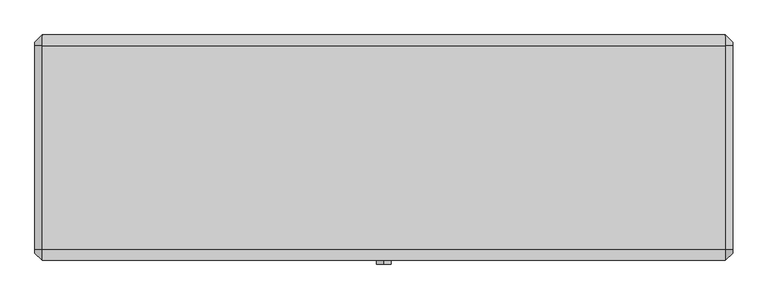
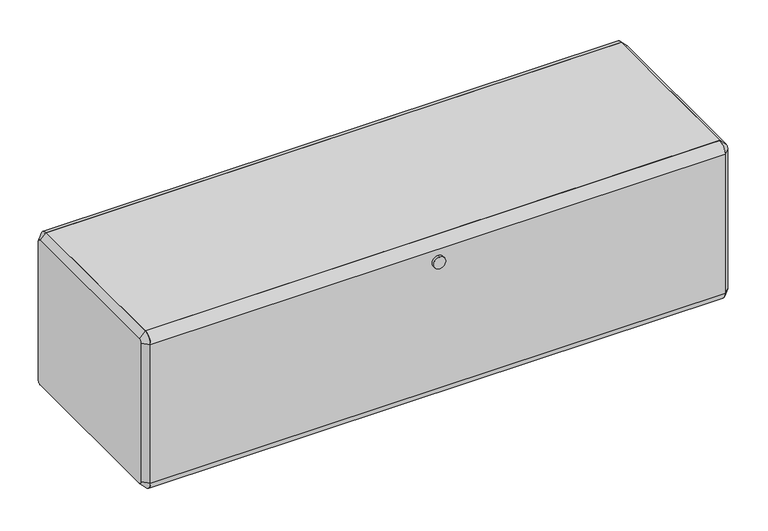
"""IFC4 building model written with IfcOpenShell, lengths in millimetres: furniture geometry."""

from ifc_helpers import new_model, si_unit, point, frame, frame_2d, origin, place, context, project, spatial, polyline, circle_curve, trimmed, segment, composite_curve, outline, extrude, source, transform, mapped, element, save
from ifc_brep_helpers import plane_surface, revolved_surface, advanced_brep


def furniture_f1771141(model_context):
    return source(origin(), model_context, "Body", "SolidModel", [
        extrude(outline(polyline([(596.9, -146.0499879), (596.9, -165.1), (-596.9, -165.1), (-596.9, -146.0499879), (596.9, -146.0499879)])), frame((0.0, 0.0, 495.3), z_axis=(0.0, 0.0, 1.0), x_axis=(1.0, 0.0, 0.0)), (0.0, 0.0, 1.0), 9.525),
        extrude(outline(polyline([(596.9, 190.5), (596.9, -165.1), (-596.9, -165.1), (-596.9, 190.5), (596.9, 190.5)])), frame((0.0, 0.0, 165.1), z_axis=(0.0, 0.0, 1.0), x_axis=(1.0, 0.0, 0.0)), (0.0, 0.0, 1.0), 3.175),
        extrude(outline(composite_curve([segment(polyline([(-165.1, 504.825), (-165.1, 508.0), (190.5, 508.0)]), True, "CONTINUOUS"), segment(trimmed(circle_curve(frame_2d((190.5, 488.95)), 19.05), [point((190.5, 508.0))], [point((209.55, 488.95))], False, "CARTESIAN"), True, "CONTINUOUS"), segment(polyline([(209.55, 488.95), (203.2, 488.95)]), True, "CONTINUOUS"), segment(trimmed(circle_curve(frame_2d((187.8607088, 489.6960671)), 15.3574239), [point((203.2, 488.95))], [point((190.5, 504.825))], True, "CARTESIAN"), True, "CONTINUOUS"), segment(polyline([(190.5, 504.825), (-165.1, 504.825)]), True, "CONTINUOUS")], self_intersect=False)), frame((-596.9, 0.0, 0.0), z_axis=(1.0, 0.0, 0.0), x_axis=(0.0, 1.0, 0.0)), (0.0, 0.0, 1.0), 1193.8),
        extrude(outline(composite_curve([segment(trimmed(circle_curve(frame_2d((-165.1, 488.95)), 19.05), [point((-184.15, 488.95))], [point((-165.1, 508.0))], False, "CARTESIAN"), True, "CONTINUOUS"), segment(polyline([(-165.1, 508.0), (-165.1, 495.3)]), True, "CONTINUOUS"), segment(trimmed(circle_curve(frame_2d((-165.1, 488.95)), 6.35), [point((-165.1, 495.3))], [point((-171.45, 488.95))], True, "CARTESIAN"), True, "CONTINUOUS"), segment(polyline([(-171.45, 488.95), (-171.45, 184.15)]), True, "CONTINUOUS"), segment(trimmed(circle_curve(frame_2d((-165.1, 184.15)), 6.35), [point((-171.45, 184.15))], [point((-165.1, 177.8))], True, "CARTESIAN"), True, "CONTINUOUS"), segment(polyline([(-165.1, 177.8), (-165.1, 165.1)]), True, "CONTINUOUS"), segment(trimmed(circle_curve(frame_2d((-165.1, 184.15)), 19.05), [point((-165.1, 165.1))], [point((-184.15, 184.15))], False, "CARTESIAN"), True, "CONTINUOUS"), segment(polyline([(-184.15, 184.15), (-184.15, 488.95)]), True, "CONTINUOUS")], self_intersect=False)), frame((-596.9, 0.0, 0.0), z_axis=(1.0, 0.0, 0.0), x_axis=(0.0, 1.0, 0.0)), (0.0, 0.0, 1.0), 1193.8),
        extrude(outline(composite_curve([segment(trimmed(circle_curve(frame_2d((463.5002824, 0.0)), 12.713771), [point((450.7865114, 0.0))], [point((476.2140535, 0.0))], False, "CARTESIAN"), True, "CONTINUOUS"), segment(trimmed(circle_curve(frame_2d((463.5002824, 0.0)), 12.713771), [point((476.2140535, 0.0))], [point((450.7865114, 0.0))], False, "CARTESIAN"), True, "CONTINUOUS")], self_intersect=False)), frame((0.0, -190.5, 0.0), z_axis=(0.0, 1.0, 0.0), x_axis=(0.0, 0.0, 1.0)), (0.0, 0.0, 1.0), 6.35),
        advanced_brep(
        [(609.6, 190.5, 495.3), (609.6, -165.1, 495.3), (609.6, -171.45, 488.95), (609.6, -171.45, 184.15), (609.6, -165.1, 177.8), (609.6, 190.5, 177.8), (609.6, 196.85, 184.15), (609.6, 196.85, 488.95), (596.9, 190.5, 508.0), (596.9, 209.55, 488.95), (596.9, 209.55, 184.15), (596.9, 190.5, 165.1), (596.9, -165.1, 165.1), (596.9, -184.15, 184.15), (596.9, -184.15, 488.95), (596.9, -165.1, 508.0)],
        [
            (0, 1),
            (1, 2, circle_curve(frame((609.6, -165.1, 488.95), z_axis=(1.0, 1.5587531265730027e-12, -1.6520118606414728e-12), x_axis=(1.652051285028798e-12, 0.0, 1.0)), 6.35)),
            (2, 3),
            (3, 4, circle_curve(frame((609.6, -165.1, 184.15), z_axis=(1.0, -2.342126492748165e-12, -2.355449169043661e-12), x_axis=(-2.342106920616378e-12, -1.0, 0.0)), 6.35)),
            (4, 5),
            (5, 6, circle_curve(frame((609.6, 190.5, 184.15), z_axis=(1.0, -3.0988545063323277e-12, 3.101519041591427e-12), x_axis=(3.1015606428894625e-12, 0.0, -1.0)), 6.35)),
            (6, 7),
            (7, 0, circle_curve(frame((609.6, 190.5, 488.95), z_axis=(1.0, 1.5587531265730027e-12, 1.460165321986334e-12), x_axis=(-1.558787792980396e-12, 1.0, 0.0)), 6.35)),
            (8, 9, circle_curve(frame((596.9, 190.5, 488.95), z_axis=(-1.0, -1.5587531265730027e-12, -1.460165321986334e-12), x_axis=(-1.558787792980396e-12, 1.0, 0.0)), 19.05)),
            (9, 10),
            (10, 11, circle_curve(frame((596.9, 190.5, 184.15), z_axis=(-1.0, 3.0988545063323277e-12, -3.101519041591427e-12), x_axis=(3.1015606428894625e-12, 0.0, -1.0)), 19.05)),
            (11, 12),
            (12, 13, circle_curve(frame((596.9, -165.1, 184.15), z_axis=(-1.0, 2.342126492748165e-12, 2.355449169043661e-12), x_axis=(-2.342106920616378e-12, -1.0, 0.0)), 19.05)),
            (13, 14),
            (14, 15, circle_curve(frame((596.9, -165.1, 488.95), z_axis=(-1.0, -1.5587531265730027e-12, 1.6520118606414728e-12), x_axis=(1.652051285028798e-12, 0.0, 1.0)), 19.05)),
            (15, 8),
            (15, 1),
            (0, 8),
            (14, 2),
            (13, 3),
            (12, 4),
            (11, 5),
            (10, 6),
            (9, 7),
        ],
        [
            plane_surface(frame((609.6, 12.7, 336.55), z_axis=(1.0, 0.0, 0.0), x_axis=(0.0, -1.0, 0.0))),
            plane_surface(frame((596.9, 12.7, 336.55), z_axis=(-1.0, 0.0, 0.0), x_axis=(0.0, -1.0, 0.0))),
            plane_surface(frame((596.9, 12.7, 508.0), z_axis=(0.7071067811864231, 0.0, 0.7071067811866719), x_axis=(0.0, -1.0, 0.0))),
            revolved_surface(polyline([(609.6000000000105, -165.1, 495.2999999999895), (596.9, -165.1, 508.0)]), (615.95, -165.1, 488.95), (-1.0, -1.5587531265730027e-12, 1.6520118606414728e-12)),
            plane_surface(frame((596.9, -184.15, 336.55), z_axis=(0.7071067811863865, -0.7071067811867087, 0.0), x_axis=(0.0, 0.0, -1.0))),
            revolved_surface(polyline([(609.6000000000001, -171.4499999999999, 184.15), (596.8999999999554, -184.15000000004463, 184.15)]), (615.95, -165.1, 184.15), (-1.0, 2.342126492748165e-12, 2.355449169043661e-12)),
            plane_surface(frame((596.9, 12.7, 165.1), z_axis=(0.7071067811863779, 0.0, -0.7071067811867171), x_axis=(0.0, 1.0, 0.0))),
            revolved_surface(polyline([(609.6000000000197, 190.5, 177.8000000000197), (596.9, 190.5, 165.1)]), (615.95, 190.5, 184.15), (-1.0, 3.0988545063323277e-12, -3.101519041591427e-12)),
            plane_surface(frame((596.9, 209.55, 336.55), z_axis=(0.7071067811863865, 0.7071067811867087, 0.0), x_axis=(0.0, 0.0, 1.0))),
            revolved_surface(polyline([(609.6, 196.85, 488.95), (596.8999999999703, 209.5500000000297, 488.95)]), (615.95, 190.5, 488.95), (-1.0, -1.5587531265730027e-12, -1.460165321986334e-12)),
        ],
        [
            (0, [[1, 2, 3, 4, 5, 6, 7, 8]]),
            (1, [[9, 10, 11, 12, 13, 14, 15, 16]]),
            (2, [[-16, 17, -1, 18]]),
            (3, [[-15, 19, -2, -17]]),
            (4, [[-14, 20, -3, -19]]),
            (5, [[-13, 21, -4, -20]]),
            (6, [[-12, 22, -5, -21]]),
            (7, [[-11, 23, -6, -22]]),
            (8, [[-10, 24, -7, -23]]),
            (9, [[-9, -18, -8, -24]]),
        ],
    ),
        advanced_brep(
        [(-609.6, -165.1, 495.3), (-609.6, 190.5, 495.3), (-609.6, 196.85, 488.95), (-609.6, 196.85, 184.15), (-609.6, 190.5, 177.8), (-609.6, -165.1, 177.8), (-609.6, -171.45, 184.15), (-609.6, -171.45, 488.95), (-596.9, -165.1, 508.0), (-596.9, -184.15, 488.95), (-596.9, -184.15, 184.15), (-596.9, -165.1, 165.1), (-596.9, 190.5, 165.1), (-596.9, 209.55, 184.15), (-596.9, 209.55, 488.95), (-596.9, 190.5, 508.0)],
        [
            (0, 1),
            (1, 2, circle_curve(frame((-609.6, 190.5, 488.95), z_axis=(-1.0, -1.556088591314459e-12, -1.4601653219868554e-12), x_axis=(-1.4601859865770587e-12, 0.0, 1.0)), 6.35)),
            (2, 3),
            (3, 4, circle_curve(frame((-609.6, 190.5, 184.15), z_axis=(-1.0, 0.0, 0.0), x_axis=(0.0, 1.0, 0.0)), 6.35)),
            (4, 5),
            (5, 6, circle_curve(frame((-609.6, -165.1, 184.15), z_axis=(-1.0, 0.0, 0.0), x_axis=(0.0, 0.0, -1.0)), 6.35)),
            (6, 7),
            (7, 0, circle_curve(frame((-609.6, -165.1, 488.95), z_axis=(-1.0, -1.5534240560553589e-12, 1.6520118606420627e-12), x_axis=(1.5534494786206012e-12, -1.0, 0.0)), 6.35)),
            (8, 9, circle_curve(frame((-596.9, -165.1, 488.95), z_axis=(1.0, 1.5534240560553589e-12, -1.6520118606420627e-12), x_axis=(1.5534494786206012e-12, -1.0, 0.0)), 19.05)),
            (9, 10),
            (10, 11, circle_curve(frame((-596.9, -165.1, 184.15), z_axis=(1.0, 0.0, 0.0), x_axis=(0.0, 0.0, -1.0)), 19.05)),
            (11, 12),
            (12, 13, circle_curve(frame((-596.9, 190.5, 184.15), z_axis=(1.0, 0.0, 0.0), x_axis=(0.0, 1.0, 0.0)), 19.05)),
            (13, 14),
            (14, 15, circle_curve(frame((-596.9, 190.5, 488.95), z_axis=(1.0, 1.556088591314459e-12, 1.4601653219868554e-12), x_axis=(-1.4601859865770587e-12, 0.0, 1.0)), 19.05)),
            (15, 8),
            (15, 1),
            (0, 8),
            (14, 2),
            (13, 3),
            (12, 4),
            (11, 5),
            (10, 6),
            (9, 7),
        ],
        [
            plane_surface(frame((-609.6, 12.7, 336.55), z_axis=(-1.0, 0.0, 0.0), x_axis=(0.0, -1.0, 0.0))),
            plane_surface(frame((-596.9, 12.7, 336.55), z_axis=(1.0, 0.0, 0.0), x_axis=(0.0, -1.0, 0.0))),
            plane_surface(frame((-596.9, 12.7, 508.0), z_axis=(-0.707106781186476, 0.0, 0.7071067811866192), x_axis=(0.0, 1.0, 0.0))),
            revolved_surface(polyline([(-609.6000000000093, 190.5, 495.29999999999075), (-596.8999999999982, 190.5, 508.0000000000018)]), (-615.95, 190.5, 488.95), (1.0, 1.556088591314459e-12, 1.4601653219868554e-12)),
            plane_surface(frame((-596.9, 209.55, 336.55), z_axis=(-0.7071067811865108, 0.7071067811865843, 0.0), x_axis=(0.0, 0.0, -1.0))),
            revolved_surface(polyline([(-609.6, 196.85, 184.15), (-596.9, 209.55, 184.15)]), (-615.95, 190.5, 184.15), (1.0, 0.0, 0.0)),
            plane_surface(frame((-596.9, 12.7, 165.1), z_axis=(-0.7071067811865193, 0.0, -0.7071067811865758), x_axis=(0.0, -1.0, 0.0))),
            revolved_surface(polyline([(-609.6, -165.1, 177.8), (-596.9, -165.1, 165.1)]), (-615.95, -165.1, 184.15), (1.0, 0.0, 0.0)),
            plane_surface(frame((-596.9, -184.15, 336.55), z_axis=(-0.7071067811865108, -0.7071067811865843, 0.0), x_axis=(0.0, 0.0, 1.0))),
            revolved_surface(polyline([(-609.6000000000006, -171.44999999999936, 488.95), (-596.8999999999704, -184.1500000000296, 488.95)]), (-615.95, -165.1, 488.95), (1.0, 1.5534240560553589e-12, -1.6520118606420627e-12)),
        ],
        [
            (0, [[1, 2, 3, 4, 5, 6, 7, 8]]),
            (1, [[9, 10, 11, 12, 13, 14, 15, 16]]),
            (2, [[-16, 17, -1, 18]]),
            (3, [[-15, 19, -2, -17]]),
            (4, [[-14, 20, -3, -19]]),
            (5, [[-13, 21, -4, -20]]),
            (6, [[-12, 22, -5, -21]]),
            (7, [[-11, 23, -6, -22]]),
            (8, [[-10, 24, -7, -23]]),
            (9, [[-9, -18, -8, -24]]),
        ],
    ),
    ])


if __name__ == "__main__":
    model = new_model("IFC4")
    model_context = context("Model", 3, world=origin())
    ifc_project = project(units=[si_unit("LENGTHUNIT", "METRE", prefix="MILLI")], contexts=[model_context])
    site = spatial("IfcSite", under=ifc_project)
    building = spatial("IfcBuilding", under=site)
    placement = place(None, origin())
    furniture_shape = furniture_f1771141(model_context)
    element("IfcFurniture", 1, ObjectType="HermanMiller_ActionOffice_A3121_B-StyleSuspendedLateralFile : 16\"D x 48\"W", at=placement, inside=building, context=model_context, shape_type="MappedRepresentation", body=[
        mapped(furniture_shape, transform((0.0, 0.0, 0.0), x_axis=(1.0, 0.0, 0.0), y_axis=(0.0, 1.0, 0.0), z_axis=(0.0, 0.0, 1.0))),
    ])
    save(model, "model.ifc")
